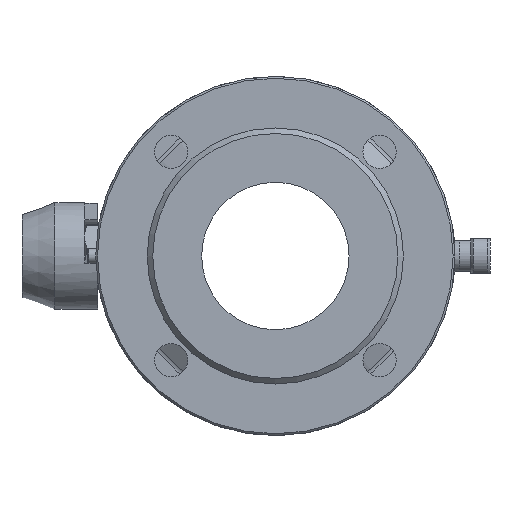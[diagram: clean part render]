
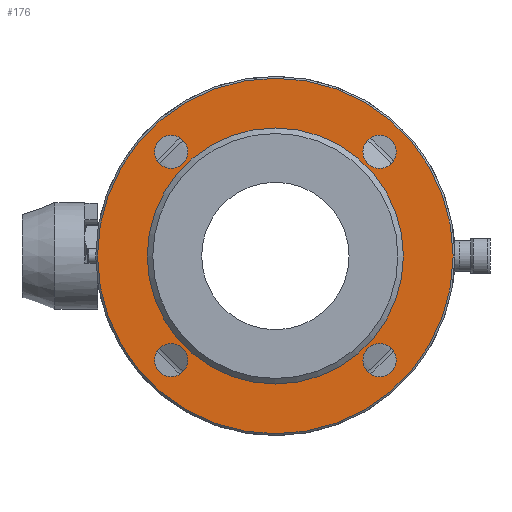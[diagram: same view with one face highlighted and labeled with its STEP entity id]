
A CAD part, left-side view. The second image highlights one B-rep face of the part: STEP entity #176.
In plain terms, the highlighted planar face has unit normal (-1, 0, 0).
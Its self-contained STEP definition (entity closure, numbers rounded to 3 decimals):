
#176=ADVANCED_FACE('',(#2313,#2315,#2317,#2319,#2321,#2323),#2325,.T.);
#2313=FACE_BOUND('',#2314,.T.);
#2314=EDGE_LOOP('',(#4758));
#2315=FACE_BOUND('',#2316,.T.);
#2316=EDGE_LOOP('',(#4759));
#2317=FACE_BOUND('',#2318,.T.);
#2318=EDGE_LOOP('',(#4760));
#2319=FACE_BOUND('',#2320,.T.);
#2320=EDGE_LOOP('',(#4761));
#2321=FACE_BOUND('',#2322,.T.);
#2322=EDGE_LOOP('',(#4762));
#2323=FACE_OUTER_BOUND('',#2324,.T.);
#2324=EDGE_LOOP('',(#4763));
#2325=PLANE('',#2326);
#2326=AXIS2_PLACEMENT_3D('',#2327,#2328,#2329);
#2327=CARTESIAN_POINT('',(-97.,0.,0.));
#2328=DIRECTION('',(-1.,-0.,-0.));
#2329=DIRECTION('',(0.,1.,0.));
#4758=ORIENTED_EDGE('',*,*,#6844,.T.);
#4759=ORIENTED_EDGE('',*,*,#6845,.T.);
#4760=ORIENTED_EDGE('',*,*,#6846,.T.);
#4761=ORIENTED_EDGE('',*,*,#6821,.T.);
#4762=ORIENTED_EDGE('',*,*,#6847,.T.);
#4763=ORIENTED_EDGE('',*,*,#6848,.F.);
#6821=EDGE_CURVE('',#7652,#7652,#7654,.T.);
#6844=EDGE_CURVE('',#7697,#7697,#7698,.F.);
#6845=EDGE_CURVE('',#7699,#7699,#7700,.F.);
#6846=EDGE_CURVE('',#7701,#7701,#7702,.F.);
#6847=EDGE_CURVE('',#7703,#7703,#7704,.F.);
#6848=EDGE_CURVE('',#7705,#7705,#7706,.T.);
#7652=VERTEX_POINT('',#9926);
#7654=CIRCLE('',#9930,69.5);
#7697=VERTEX_POINT('',#10042);
#7698=CIRCLE('',#10043,9.);
#7699=VERTEX_POINT('',#10047);
#7700=CIRCLE('',#10048,9.);
#7701=VERTEX_POINT('',#10052);
#7702=CIRCLE('',#10053,9.);
#7703=VERTEX_POINT('',#10057);
#7704=CIRCLE('',#10058,9.);
#7705=VERTEX_POINT('',#10062);
#7706=CIRCLE('',#10063,96.5);
#9926=CARTESIAN_POINT('',(-97.,69.5,0.));
#9930=AXIS2_PLACEMENT_3D('',#9931,#9932,#9933);
#9931=CARTESIAN_POINT('',(-97.,0.,0.));
#9932=DIRECTION('',(1.,0.,0.));
#9933=DIRECTION('',(0.,1.,0.));
#10042=CARTESIAN_POINT('',(-97.,-65.569,56.569));
#10043=AXIS2_PLACEMENT_3D('',#10044,#10045,#10046);
#10044=CARTESIAN_POINT('',(-97.,-56.569,56.569));
#10045=DIRECTION('',(-1.,-0.,-0.));
#10046=DIRECTION('',(0.,-1.,-0.));
#10047=CARTESIAN_POINT('',(-97.,56.569,65.569));
#10048=AXIS2_PLACEMENT_3D('',#10049,#10050,#10051);
#10049=CARTESIAN_POINT('',(-97.,56.569,56.569));
#10050=DIRECTION('',(-1.,-0.,-0.));
#10051=DIRECTION('',(0.,0.,1.));
#10052=CARTESIAN_POINT('',(-97.,65.569,-56.569));
#10053=AXIS2_PLACEMENT_3D('',#10054,#10055,#10056);
#10054=CARTESIAN_POINT('',(-97.,56.569,-56.569));
#10055=DIRECTION('',(-1.,-0.,-0.));
#10056=DIRECTION('',(0.,1.,0.));
#10057=CARTESIAN_POINT('',(-97.,-56.569,-65.569));
#10058=AXIS2_PLACEMENT_3D('',#10059,#10060,#10061);
#10059=CARTESIAN_POINT('',(-97.,-56.569,-56.569));
#10060=DIRECTION('',(-1.,-0.,-0.));
#10061=DIRECTION('',(0.,0.,-1.));
#10062=CARTESIAN_POINT('',(-97.,96.5,0.));
#10063=AXIS2_PLACEMENT_3D('',#10064,#10065,#10066);
#10064=CARTESIAN_POINT('',(-97.,0.,0.));
#10065=DIRECTION('',(1.,0.,0.));
#10066=DIRECTION('',(0.,1.,0.));
